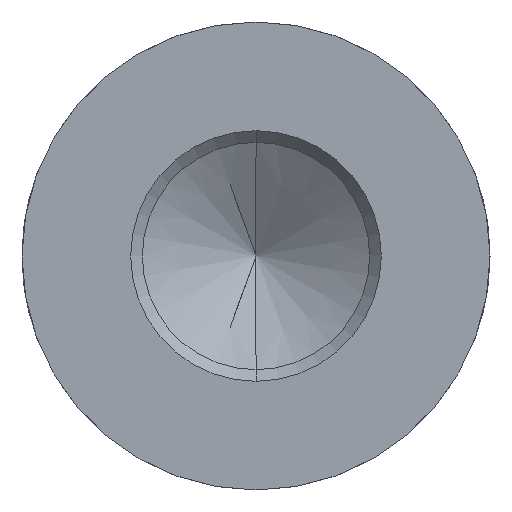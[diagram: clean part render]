
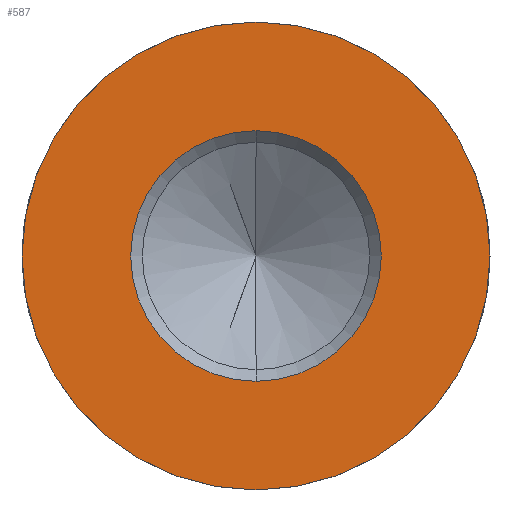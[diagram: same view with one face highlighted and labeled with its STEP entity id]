
A CAD part, front view. The second image highlights one B-rep face of the part: STEP entity #587.
In plain terms, the highlighted planar face has unit normal (0, -1, 0).
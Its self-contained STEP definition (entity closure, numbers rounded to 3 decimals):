
#7 = VERTEX_POINT ( 'NONE', #650 ) ;
#33 = CARTESIAN_POINT ( 'NONE',  ( 0., 0., 0. ) ) ;
#88 = AXIS2_PLACEMENT_3D ( 'NONE', #374, #625, #221 ) ;
#97 = CARTESIAN_POINT ( 'NONE',  ( 0., 0., 0. ) ) ;
#100 = EDGE_LOOP ( 'NONE', ( #184, #522 ) ) ;
#111 = PLANE ( 'NONE',  #88 ) ;
#122 = EDGE_LOOP ( 'NONE', ( #334, #300 ) ) ;
#123 = AXIS2_PLACEMENT_3D ( 'NONE', #97, #442, #435 ) ;
#128 = CARTESIAN_POINT ( 'NONE',  ( 0., 0., -3.75 ) ) ;
#145 = CARTESIAN_POINT ( 'NONE',  ( 0., 0., 3.75 ) ) ;
#150 = CARTESIAN_POINT ( 'NONE',  ( 0., 0., 0. ) ) ;
#160 = VERTEX_POINT ( 'NONE', #318 ) ;
#181 = DIRECTION ( 'NONE',  ( 0., -1., 0. ) ) ;
#184 = ORIENTED_EDGE ( 'NONE', *, *, #296, .F. ) ;
#217 = AXIS2_PLACEMENT_3D ( 'NONE', #150, #496, #606 ) ;
#221 = DIRECTION ( 'NONE',  ( 0., 0., 1. ) ) ;
#233 = EDGE_CURVE ( 'NONE', #7, #160, #446, .T. ) ;
#237 = DIRECTION ( 'NONE',  ( 0., 0., -1. ) ) ;
#259 = VERTEX_POINT ( 'NONE', #128 ) ;
#287 = DIRECTION ( 'NONE',  ( 0., -1., 0. ) ) ;
#296 = EDGE_CURVE ( 'NONE', #259, #356, #649, .T. ) ;
#300 = ORIENTED_EDGE ( 'NONE', *, *, #449, .T. ) ;
#318 = CARTESIAN_POINT ( 'NONE',  ( 0., 0., 7. ) ) ;
#334 = ORIENTED_EDGE ( 'NONE', *, *, #233, .T. ) ;
#351 = FACE_BOUND ( 'NONE', #100, .T. ) ;
#354 = EDGE_CURVE ( 'NONE', #356, #259, #474, .T. ) ;
#356 = VERTEX_POINT ( 'NONE', #145 ) ;
#374 = CARTESIAN_POINT ( 'NONE',  ( -7., 0., 0. ) ) ;
#382 = CARTESIAN_POINT ( 'NONE',  ( 0., 0., 0. ) ) ;
#405 = CIRCLE ( 'NONE', #217, 7. ) ;
#433 = DIRECTION ( 'NONE',  ( 0., 0., -1. ) ) ;
#435 = DIRECTION ( 'NONE',  ( 0., 0., -1. ) ) ;
#442 = DIRECTION ( 'NONE',  ( 0., -1., 0. ) ) ;
#446 = CIRCLE ( 'NONE', #597, 7. ) ;
#449 = EDGE_CURVE ( 'NONE', #160, #7, #405, .T. ) ;
#454 = AXIS2_PLACEMENT_3D ( 'NONE', #33, #287, #237 ) ;
#474 = CIRCLE ( 'NONE', #123, 3.75 ) ;
#496 = DIRECTION ( 'NONE',  ( 0., -1., 0. ) ) ;
#522 = ORIENTED_EDGE ( 'NONE', *, *, #354, .F. ) ;
#576 = FACE_OUTER_BOUND ( 'NONE', #122, .T. ) ;
#587 = ADVANCED_FACE ( 'NONE', ( #351, #576 ), #111, .F. ) ;
#597 = AXIS2_PLACEMENT_3D ( 'NONE', #382, #181, #433 ) ;
#606 = DIRECTION ( 'NONE',  ( 0., 0., -1. ) ) ;
#625 = DIRECTION ( 'NONE',  ( 0., 1., 0. ) ) ;
#649 = CIRCLE ( 'NONE', #454, 3.75 ) ;
#650 = CARTESIAN_POINT ( 'NONE',  ( 0., 0., -7. ) ) ;
